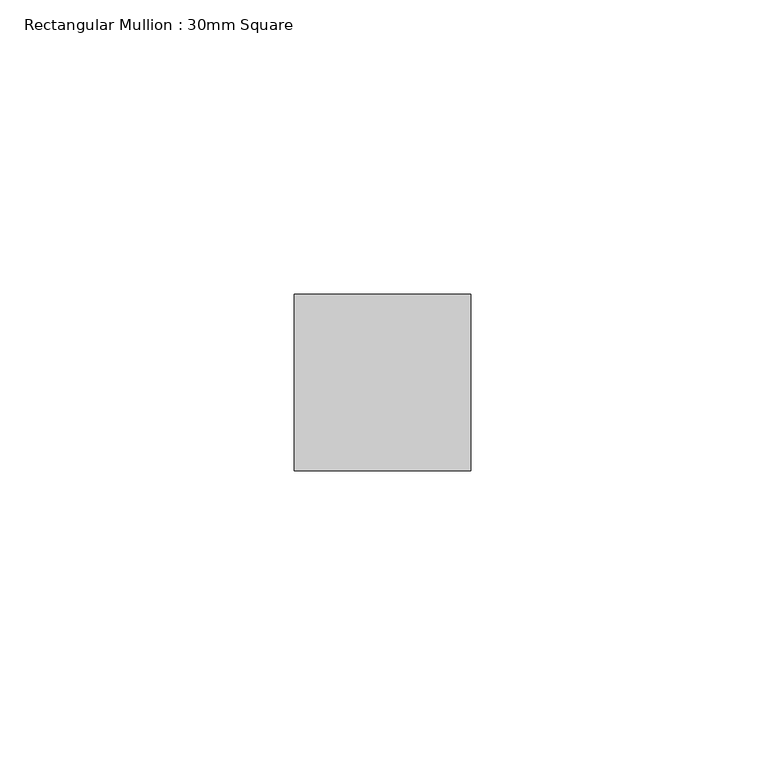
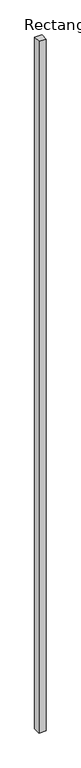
"""IFC4 building model written with IfcOpenShell, lengths in millimetres: member geometry, Rectangular Mullion : 30mm Square."""

import ifcopenshell
import ifcopenshell.guid

model = None  # the IFC model being written
_history = None  # IfcOwnerHistory: only IFC2X3 demands one
_inside = {}  # id of a spatial element -> (the spatial element, [elements in it])
_under = {}  # id of a project, library or spatial element -> (it, [spatial elements below it])
_declared = {}  # id of a project -> (the project, [libraries it declares])
_typed = {}  # id of a type object -> (the type object, [elements of that type])
_made_of = {}  # id of a material, layer set ... -> (it, [elements and type objects made of it])


def new_model(schema):
    """Start an empty IFC model of exactly this schema.

    Asked for "IFC4X3", IfcOpenShell would pick the latest addendum, in which some entities
    have other attributes; the version numbers below select the first issue.
    IFC2X3 requires an IfcOwnerHistory on every rooted entity: one is made here for all.
    """
    global model, _history
    if schema == "IFC4X3":
        model = ifcopenshell.file(schema_version=(4, 3, 0, 0))
    else:
        model = ifcopenshell.file(schema=schema)
    _inside.clear()
    _under.clear()
    _declared.clear()
    _typed.clear()
    _made_of.clear()
    _history = None
    if model.schema == "IFC2X3":
        org = make("IfcOrganization", Name="unknown")
        user = make(
            "IfcPersonAndOrganization",
            ThePerson=make("IfcPerson", FamilyName="unknown"),
            TheOrganization=org,
        )
        app = make(
            "IfcApplication",
            ApplicationDeveloper=org,
            Version="unknown",
            ApplicationFullName="unknown",
            ApplicationIdentifier="unknown",
        )
        _history = make(
            "IfcOwnerHistory",
            OwningUser=user,
            OwningApplication=app,
            ChangeAction="ADDED",
            CreationDate=0,
        )
    return model


def make(cls, **values):
    """One entity of the class cls with the attributes given. An attribute that is None is left unset."""
    return model.create_entity(
        cls, **{name: value for name, value in values.items() if value is not None}
    )


def rooted(cls, **values):
    """An entity with a GlobalId (a new one), such as an element, a storey or a relation."""
    return make(cls, GlobalId=ifcopenshell.guid.new(), OwnerHistory=_history, **values)


def si_unit(unit_type, name, prefix=None):
    """IfcSIUnit, for example si_unit("LENGTHUNIT", "METRE", prefix="MILLI")."""
    return make("IfcSIUnit", UnitType=unit_type, Prefix=prefix, Name=name)


def assignment(units):
    """IfcUnitAssignment: the units of a project."""
    return None if units is None else make("IfcUnitAssignment", Units=units)


def point(xyz):
    """IfcCartesianPoint."""
    return None if xyz is None else make("IfcCartesianPoint", Coordinates=xyz)


def direction(xyz):
    """IfcDirection."""
    return None if xyz is None else make("IfcDirection", DirectionRatios=xyz)


def frame(location, z_axis=None, x_axis=None):
    """IfcAxis2Placement3D, a coordinate frame: its origin and axes. An axis left out is left unset."""
    return make(
        "IfcAxis2Placement3D",
        Location=point(location),
        Axis=direction(z_axis),
        RefDirection=direction(x_axis),
    )


def origin():
    """The frame at (0, 0, 0) with its axes left unset."""
    return frame((0.0, 0.0, 0.0))


def place(relative_to, where):
    """IfcLocalPlacement: puts the frame where relative to a parent placement (None: the world)."""
    return make(
        "IfcLocalPlacement", PlacementRelTo=relative_to, RelativePlacement=where
    )


def context(
    kind, dimensions, precision=None, world=None, true_north=None, identifier=None
):
    """IfcGeometricRepresentationContext, for example the 3D "Model" context."""
    return make(
        "IfcGeometricRepresentationContext",
        ContextIdentifier=identifier,
        ContextType=kind,
        CoordinateSpaceDimension=dimensions,
        Precision=precision,
        WorldCoordinateSystem=world,
        TrueNorth=true_north,
    )


def project(units=None, contexts=None):
    """IfcProject with its units and contexts."""
    return rooted(
        "IfcProject",
        Name="project",
        RepresentationContexts=contexts,
        UnitsInContext=assignment(units),
    )


def spatial(cls, under=None, at=None, **own):
    """A site, building, storey or space (cls), placed at a placement, below another one or the project."""
    s = rooted(cls, ObjectPlacement=at, **own)
    if under is not None:
        _under.setdefault(under.id(), (under, []))[1].append(s)
    return s


def polyline(points):
    """IfcPolyline through the points."""
    return make("IfcPolyline", Points=[point(p) for p in points])


def outline(outer, holes=None, kind="AREA"):
    """IfcArbitraryClosedProfileDef: a profile drawn as a closed curve; with holes, ...WithVoids."""
    if holes is None:
        return make("IfcArbitraryClosedProfileDef", ProfileType=kind, OuterCurve=outer)
    return make(
        "IfcArbitraryProfileDefWithVoids",
        ProfileType=kind,
        OuterCurve=outer,
        InnerCurves=holes,
    )


def extrude(swept, where, along, depth):
    """IfcExtrudedAreaSolid: the profile swept, set in the frame where, extruded along a direction by depth."""
    return make(
        "IfcExtrudedAreaSolid",
        SweptArea=swept,
        Position=where,
        ExtrudedDirection=direction(along),
        Depth=depth,
    )


def shape(context_of_items, identifier, shape_type, items):
    """IfcShapeRepresentation: the items that make up one representation, for example the "Body"."""
    return make(
        "IfcShapeRepresentation",
        ContextOfItems=context_of_items,
        RepresentationIdentifier=identifier,
        RepresentationType=shape_type,
        Items=items,
    )


def source(mapping_origin, context_of_items, identifier, shape_type, items):
    """IfcRepresentationMap: a shape defined once, which mapped items show again and again."""
    return make(
        "IfcRepresentationMap",
        MappingOrigin=mapping_origin,
        MappedRepresentation=shape(context_of_items, identifier, shape_type, items),
    )


def transform(
    local_origin,
    x_axis=None,
    y_axis=None,
    z_axis=None,
    scale=None,
    scale2=None,
    scale3=None,
    uniform=True,
):
    """IfcCartesianTransformationOperator3D, or its non-uniform kind. x_axis, y_axis, z_axis: its Axis1, 2, 3."""
    if uniform:
        return make(
            "IfcCartesianTransformationOperator3D",
            Axis1=direction(x_axis),
            Axis2=direction(y_axis),
            LocalOrigin=point(local_origin),
            Scale=scale,
            Axis3=direction(z_axis),
        )
    return make(
        "IfcCartesianTransformationOperator3DnonUniform",
        Axis1=direction(x_axis),
        Axis2=direction(y_axis),
        LocalOrigin=point(local_origin),
        Scale=scale,
        Axis3=direction(z_axis),
        Scale2=scale2,
        Scale3=scale3,
    )


def mapped(mapping_source, mapping_target):
    """IfcMappedItem: shows the shape of a source again, moved by a transform."""
    return make(
        "IfcMappedItem", MappingSource=mapping_source, MappingTarget=mapping_target
    )


def made_of(thing, what):
    """Note that an element or type object is made of a material, layer set ...; save() writes the relation."""
    if what is not None:
        _made_of.setdefault(what.id(), (what, []))[1].append(thing)
    return thing


def element(
    cls,
    number,
    at=None,
    inside=None,
    cuts=None,
    type_object=None,
    material=None,
    context=None,
    identifier="Body",
    shape_type=None,
    held_by="IfcProductDefinitionShape",
    body=None,
    shapes=None,
    **own,
):
    """One element of the class cls, such as IfcWall. Its Tag is "e" and its number.

    at: its placement. inside: the storey or other place that contains it. cuts: it is an
    opening in that element (IfcRelVoidsElement). A single representation is given by context,
    identifier, shape_type and body (its items); several are given by shapes. held_by: the class
    of the entity that holds the representations. save() writes the other relations.
    """
    e = rooted(cls, Tag="e%d" % number, ObjectPlacement=at, **own)
    if body is not None:
        shapes = [shape(context, identifier, shape_type, body)]
    if shapes is not None:
        e.Representation = make(held_by, Representations=shapes)
    if inside is not None:
        _inside.setdefault(inside.id(), (inside, []))[1].append(e)
    if cuts is not None:
        rooted(
            "IfcRelVoidsElement", RelatingBuildingElement=cuts, RelatedOpeningElement=e
        )
    if type_object is not None:
        _typed.setdefault(type_object.id(), (type_object, []))[1].append(e)
    return made_of(e, material)


def aggregate(whole, parts):
    """IfcRelAggregates: a whole, such as a stair, and the parts it consists of."""
    return rooted("IfcRelAggregates", RelatingObject=whole, RelatedObjects=parts)


def save(model, path):
    """Write the relations noted so far, then the file.

    IfcRelAggregates (storeys below a building ...), IfcRelContainedInSpatialStructure (elements
    in a storey), IfcRelDefinesByType, IfcRelAssociatesMaterial and IfcRelDeclares: one each for
    every whole, place, type object, material and project.
    """
    for whole, parts in _under.values():
        aggregate(whole, parts)
    for where, things in _inside.values():
        rooted(
            "IfcRelContainedInSpatialStructure",
            RelatedElements=things,
            RelatingStructure=where,
        )
    for kind, things in _typed.values():
        rooted("IfcRelDefinesByType", RelatedObjects=things, RelatingType=kind)
    for what, things in _made_of.values():
        rooted("IfcRelAssociatesMaterial", RelatedObjects=things, RelatingMaterial=what)
    for by, libraries in _declared.values():
        rooted("IfcRelDeclares", RelatingContext=by, RelatedDefinitions=libraries)
    model.write(path)


def rectangular_mullion_30mm_square_5a53314d(model_context):
    return source(origin(), model_context, "Body", "SweptSolid", [
        extrude(outline(polyline([(0.0, 15.0), (0.0, -15.0), (-30.0, -15.0), (-30.0, 15.0), (0.0, 15.0)])), frame((0.0, 0.0, -3048.0), z_axis=(0.0, 0.0, 1.0), x_axis=(1.0, 0.0, 0.0)), (0.0, 0.0, 1.0), 3048.0),
    ])


if __name__ == "__main__":
    model = new_model("IFC4")
    model_context = context("Model", 3, world=origin())
    ifc_project = project(units=[si_unit("LENGTHUNIT", "METRE", prefix="MILLI")], contexts=[model_context])
    site = spatial("IfcSite", under=ifc_project)
    building = spatial("IfcBuilding", under=site)
    placement = place(None, origin())
    rectangular_mullion_30mm_square_shape = rectangular_mullion_30mm_square_5a53314d(model_context)
    element("IfcMember", 1, ObjectType="Rectangular Mullion : 30mm Square", at=placement, inside=building, context=model_context, shape_type="MappedRepresentation", body=[
        mapped(rectangular_mullion_30mm_square_shape, transform((0.0, 0.0, 0.0), x_axis=(1.0, 0.0, 0.0), y_axis=(0.0, 1.0, 0.0), z_axis=(0.0, 0.0, 1.0))),
    ])
    save(model, "model.ifc")
